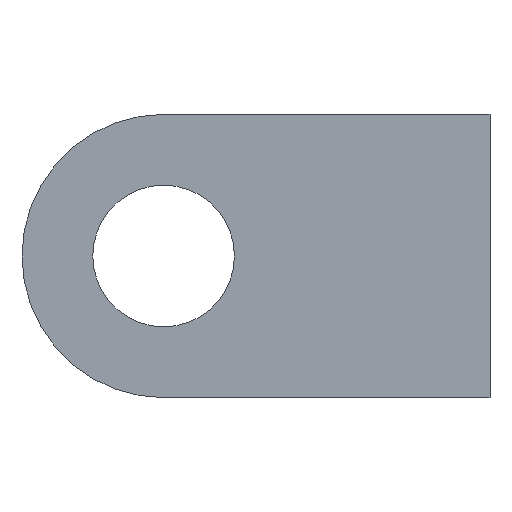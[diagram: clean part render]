
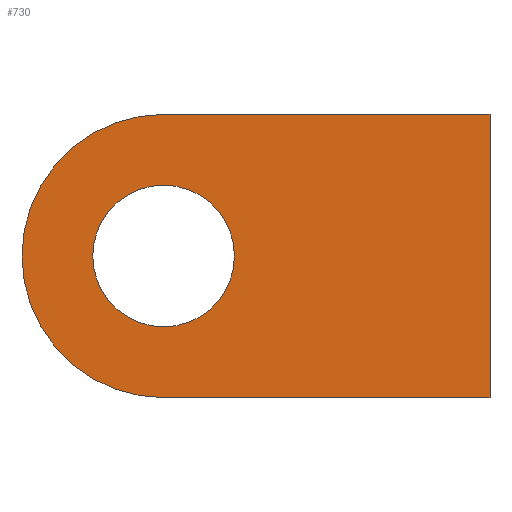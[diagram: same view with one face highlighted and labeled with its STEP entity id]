
A CAD part, left-side view. The second image highlights one B-rep face of the part: STEP entity #730.
In plain terms, the highlighted planar face has unit normal (-1, 0, 0).
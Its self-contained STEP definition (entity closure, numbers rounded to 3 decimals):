
#11 = CARTESIAN_POINT ( 'NONE',  ( -4.7, 10.6, 2.3 ) ) ;
#18 = LINE ( 'NONE', #133, #685 ) ;
#30 = PLANE ( 'NONE',  #624 ) ;
#67 = DIRECTION ( 'NONE',  ( 0., -1., 0. ) ) ;
#71 = DIRECTION ( 'NONE',  ( 0., 0., -1. ) ) ;
#72 = CARTESIAN_POINT ( 'NONE',  ( -4.7, 0., 9.2 ) ) ;
#90 = VERTEX_POINT ( 'NONE', #667 ) ;
#94 = VECTOR ( 'NONE', #414, 1000. ) ;
#104 = CARTESIAN_POINT ( 'NONE',  ( -4.7, 0., 9.2 ) ) ;
#118 = VECTOR ( 'NONE', #729, 1000. ) ;
#133 = CARTESIAN_POINT ( 'NONE',  ( -4.7, 0., 0. ) ) ;
#139 = FACE_BOUND ( 'NONE', #588, .T. ) ;
#145 = ORIENTED_EDGE ( 'NONE', *, *, #293, .T. ) ;
#149 = CARTESIAN_POINT ( 'NONE',  ( -4.7, 10.6, 6.9 ) ) ;
#156 = AXIS2_PLACEMENT_3D ( 'NONE', #601, #199, #272 ) ;
#184 = DIRECTION ( 'NONE',  ( 1., 0., 0. ) ) ;
#192 = CARTESIAN_POINT ( 'NONE',  ( -4.7, 10.6, 4.6 ) ) ;
#198 = VERTEX_POINT ( 'NONE', #514 ) ;
#199 = DIRECTION ( 'NONE',  ( 1., 0., 0. ) ) ;
#200 = DIRECTION ( 'NONE',  ( 0., 0., -1. ) ) ;
#240 = ORIENTED_EDGE ( 'NONE', *, *, #592, .F. ) ;
#244 = VERTEX_POINT ( 'NONE', #401 ) ;
#252 = ORIENTED_EDGE ( 'NONE', *, *, #347, .T. ) ;
#255 = DIRECTION ( 'NONE',  ( 1., 0., 0. ) ) ;
#272 = DIRECTION ( 'NONE',  ( 0., 0., -1. ) ) ;
#274 = LINE ( 'NONE', #104, #118 ) ;
#275 = AXIS2_PLACEMENT_3D ( 'NONE', #569, #288, #458 ) ;
#288 = DIRECTION ( 'NONE',  ( 1., 0., 0. ) ) ;
#293 = EDGE_CURVE ( 'NONE', #731, #244, #18, .T. ) ;
#303 = CIRCLE ( 'NONE', #156, 2.3 ) ;
#342 = EDGE_LOOP ( 'NONE', ( #145, #418, #240, #623 ) ) ;
#347 = EDGE_CURVE ( 'NONE', #673, #634, #629, .T. ) ;
#348 = AXIS2_PLACEMENT_3D ( 'NONE', #192, #184, #71 ) ;
#389 = EDGE_CURVE ( 'NONE', #634, #673, #303, .T. ) ;
#401 = CARTESIAN_POINT ( 'NONE',  ( -4.7, 0., 0. ) ) ;
#414 = DIRECTION ( 'NONE',  ( 0., 0., -1. ) ) ;
#418 = ORIENTED_EDGE ( 'NONE', *, *, #641, .F. ) ;
#430 = CARTESIAN_POINT ( 'NONE',  ( -4.7, 10.6, 0. ) ) ;
#434 = FACE_OUTER_BOUND ( 'NONE', #342, .T. ) ;
#458 = DIRECTION ( 'NONE',  ( 0., 0., -1. ) ) ;
#514 = CARTESIAN_POINT ( 'NONE',  ( -4.7, 0., 9.2 ) ) ;
#523 = CIRCLE ( 'NONE', #275, 4.6 ) ;
#541 = EDGE_CURVE ( 'NONE', #731, #90, #523, .T. ) ;
#566 = ORIENTED_EDGE ( 'NONE', *, *, #389, .T. ) ;
#569 = CARTESIAN_POINT ( 'NONE',  ( -4.7, 10.6, 4.6 ) ) ;
#577 = LINE ( 'NONE', #72, #94 ) ;
#588 = EDGE_LOOP ( 'NONE', ( #566, #252 ) ) ;
#592 = EDGE_CURVE ( 'NONE', #90, #198, #274, .T. ) ;
#601 = CARTESIAN_POINT ( 'NONE',  ( -4.7, 10.6, 4.6 ) ) ;
#623 = ORIENTED_EDGE ( 'NONE', *, *, #541, .F. ) ;
#624 = AXIS2_PLACEMENT_3D ( 'NONE', #659, #255, #200 ) ;
#629 = CIRCLE ( 'NONE', #348, 2.3 ) ;
#634 = VERTEX_POINT ( 'NONE', #11 ) ;
#641 = EDGE_CURVE ( 'NONE', #198, #244, #577, .T. ) ;
#659 = CARTESIAN_POINT ( 'NONE',  ( -4.7, 0., 9.2 ) ) ;
#667 = CARTESIAN_POINT ( 'NONE',  ( -4.7, 10.6, 9.2 ) ) ;
#673 = VERTEX_POINT ( 'NONE', #149 ) ;
#685 = VECTOR ( 'NONE', #67, 1000. ) ;
#729 = DIRECTION ( 'NONE',  ( 0., -1., 0. ) ) ;
#730 = ADVANCED_FACE ( 'NONE', ( #434, #139 ), #30, .F. ) ;
#731 = VERTEX_POINT ( 'NONE', #430 ) ;
